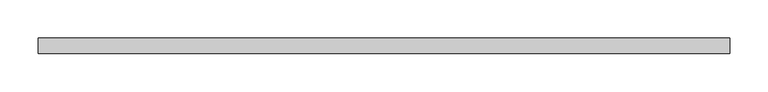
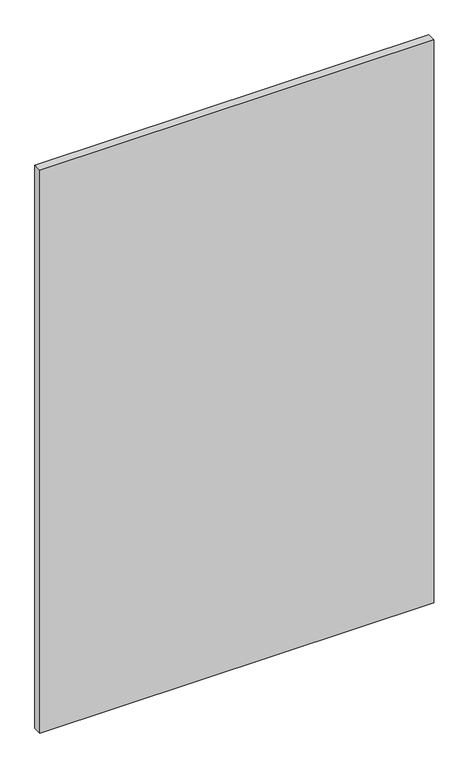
"""IFC4 building model written with IfcOpenShell, lengths in millimetres: proxy geometry, GM_Панель фасадная : Тип 1."""

from ifc_helpers import new_model, si_unit, origin, origin_with_axes, place, context, project, spatial, polyline, outline, extrude, source, transform, mapped, element, save


def generic_models_02abce9c(model_context):
    return source(origin(), model_context, "Body", "SweptSolid", [
        extrude(outline(polyline([(-775.0, 125.0), (125.0, 125.0), (125.0, 105.0), (-775.0, 105.0), (-775.0, 125.0)])), origin_with_axes(), (0.0, 0.0, 1.0), 1360.0),
    ])


if __name__ == "__main__":
    model = new_model("IFC4")
    model_context = context("Model", 3, world=origin())
    ifc_project = project(units=[si_unit("LENGTHUNIT", "METRE", prefix="MILLI")], contexts=[model_context])
    site = spatial("IfcSite", under=ifc_project)
    building = spatial("IfcBuilding", under=site)
    placement = place(None, origin())
    generic_models_shape = generic_models_02abce9c(model_context)
    element("IfcBuildingElementProxy", 1, Name="GM_Панель фасадная : Тип 1", ObjectType="GM_Панель фасадная : Тип 1", at=placement, inside=building, context=model_context, shape_type="MappedRepresentation", body=[
        mapped(generic_models_shape, transform((0.0, 0.0, 0.0), x_axis=(1.0, 0.0, 0.0), y_axis=(0.0, 1.0, 0.0), z_axis=(0.0, 0.0, 1.0))),
    ])
    save(model, "model.ifc")
